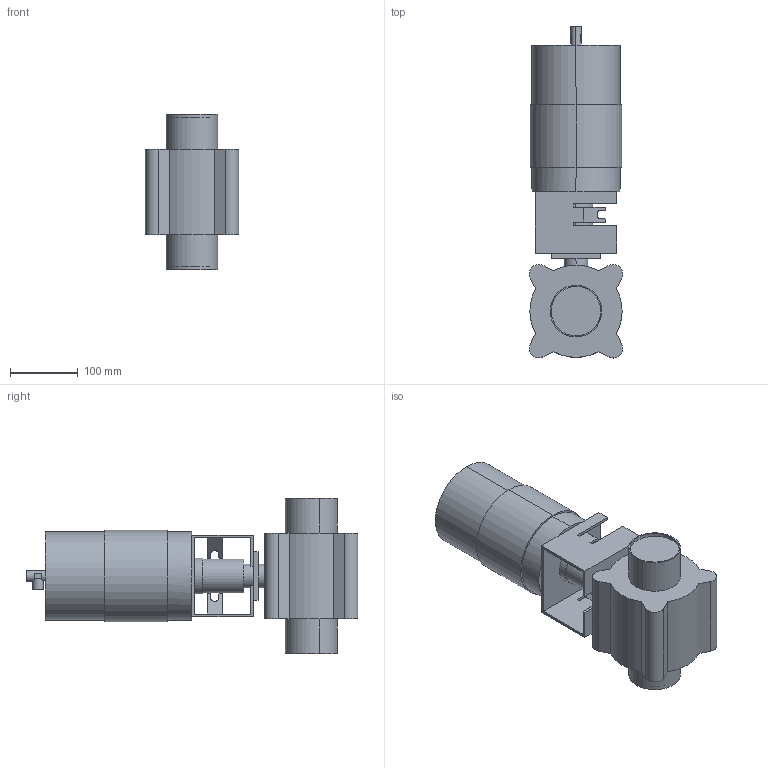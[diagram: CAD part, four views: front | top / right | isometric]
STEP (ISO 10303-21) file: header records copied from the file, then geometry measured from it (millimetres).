
FILE_DESCRIPTION(('Creo Elements/Direct Modeling STEP Export'),'2;1');
FILE_NAME('BLV1-3T-NC-12S.stp','2019-05-10T 8:27:10',(''),(''),'Creo Elements/Direct Modeling STEP processor for AP214 (Solid Model)','Creo Elements/Direct Modeling 19.0F 14-Feb-2017 (C) Parametric Technology GmbH','');
FILE_SCHEMA(('AUTOMOTIVE_DESIGN { 1 0 10303 214 1 1 1 1 }'));
Length unit declared in the file: millimetre
Products named in the file (2): BLV1-3T-NC-12S
Assembly tree (1 placements, depth 2):
  BLV1-3T-NC-12S
    BLV1-3T-NC-12S
Bounding box: 137.58 x 488.99 x 229 mm (x, y, z)
Volume: 5931240.1 mm3; surface area: 335680 mm2
Topology: 1 solids, 1 shells, 130 faces, 339 edges, 220 vertices
Faces by surface type: plane 92, cylinder 38
Entity records: 3669 total; most frequent: ORIENTED_EDGE 678, CARTESIAN_POINT 654, DIRECTION 550, EDGE_CURVE 339, VERTEX_POINT 220, VECTOR 216, LINE 216, AXIS2_PLACEMENT_3D 167
